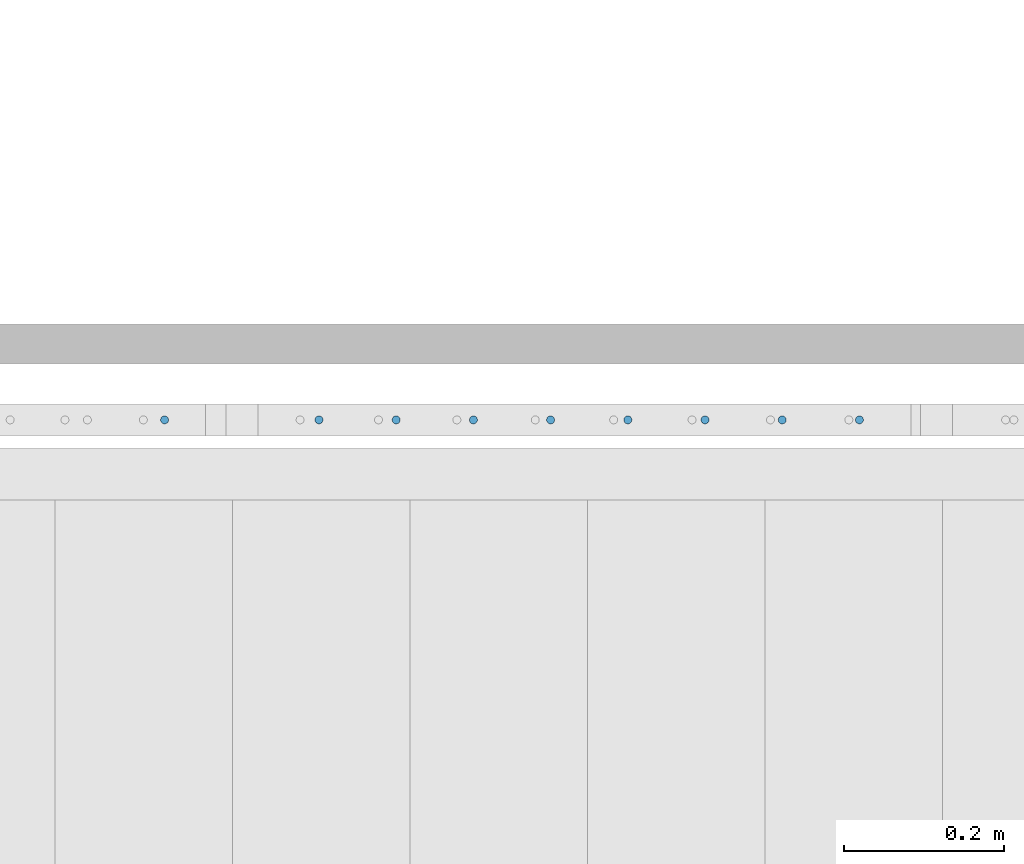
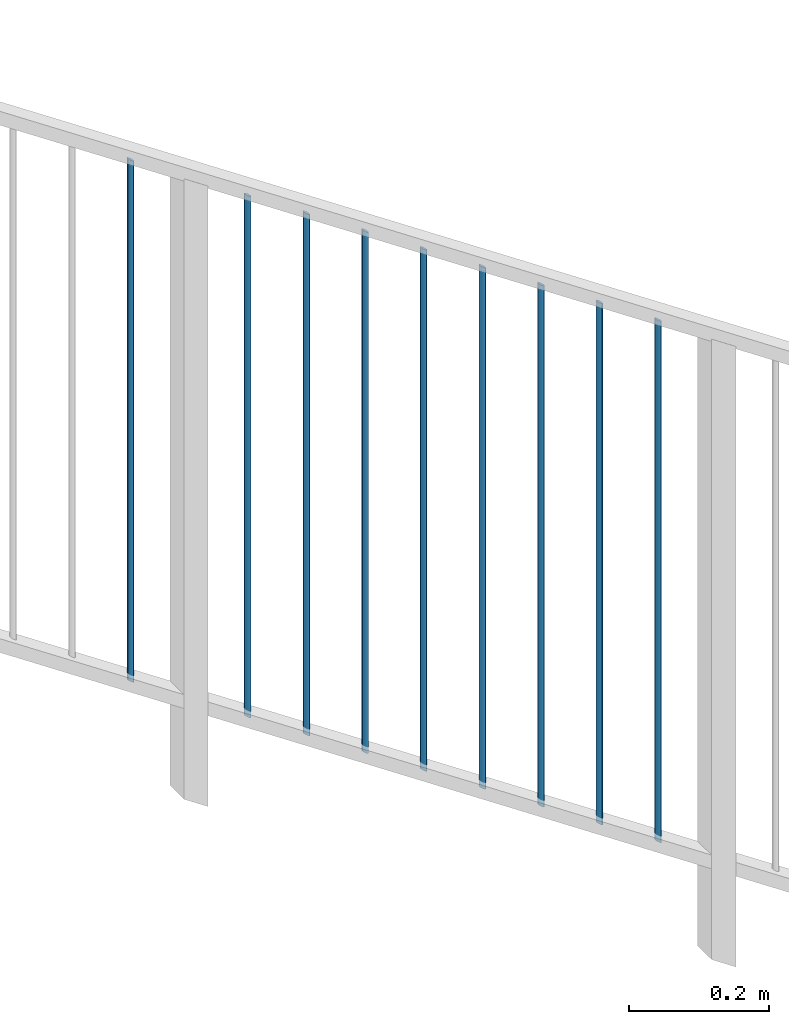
# One storey, part 32 of 135: 9 members, 1 element without a shape of its own.
"""IFC2X3 building model written with IfcOpenShell, lengths in millimetres."""

from ifc_helpers import new_model, entity, si_unit, converted_unit, derived_unit, money_unit, direction, frame, origin_with_axes, place, context, subcontext, project, spatial, faceted_brep, source, transform, mapped, material, type_object, type_shapes, element, aggregate, save


model = new_model("IFC2X3")

# Units and contexts
model_context = context("Model", 3, precision=0.01, world=origin_with_axes(), true_north=direction((0.0, 1.0)))
body_context = subcontext(model_context, "Body", "Model", "MODEL_VIEW")
ifc_project = project(units=[si_unit("LENGTHUNIT", "METRE", prefix="MILLI"), si_unit("AREAUNIT", "SQUARE_METRE"), si_unit("VOLUMEUNIT", "CUBIC_METRE"), converted_unit("PLANEANGLEUNIT", "DEGREE", entity("IfcPlaneAngleMeasure", 0.0174532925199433), si_unit("PLANEANGLEUNIT", "RADIAN"), dimensions=[0, 0, 0, 0, 0, 0, 0]), money_unit("EUR"), converted_unit("TIMEUNIT", "Year", entity("IfcTimeMeasure", 31557600.0), si_unit("TIMEUNIT", "SECOND"), dimensions=[0, 0, 1, 0, 0, 0, 0]), si_unit("MASSUNIT", "GRAM", prefix="KILO"), si_unit("THERMODYNAMICTEMPERATUREUNIT", "DEGREE_CELSIUS"), si_unit("LUMINOUSINTENSITYUNIT", "LUMEN"), si_unit("ENERGYUNIT", "JOULE", prefix="MEGA"), derived_unit("THERMALCONDUCTANCEUNIT", [(si_unit("POWERUNIT", "WATT"), 1), (si_unit("LENGTHUNIT", "METRE"), -1), (si_unit("THERMODYNAMICTEMPERATUREUNIT", "KELVIN"), -1)]), derived_unit("SPECIFICHEATCAPACITYUNIT", [(si_unit("ENERGYUNIT", "JOULE"), 1), (si_unit("MASSUNIT", "GRAM", prefix="KILO"), -1), (si_unit("THERMODYNAMICTEMPERATUREUNIT", "KELVIN"), -1)]), derived_unit("MASSDENSITYUNIT", [(si_unit("MASSUNIT", "GRAM", prefix="KILO"), 1), (si_unit("VOLUMEUNIT", "CUBIC_METRE"), -1)])], contexts=[model_context])

# Site, building, storey
site_placement = place(None, origin_with_axes())
site = spatial("IfcSite", under=ifc_project, at=site_placement, Name="Site", CompositionType="ELEMENT")
building_placement = place(site_placement, origin_with_axes())
building = spatial("IfcBuilding", under=site, at=building_placement, Name="Naam gebouw", CompositionType="ELEMENT")
storey_placement = place(building_placement, origin_with_axes())
storey = spatial("IfcBuildingStorey", under=building, at=storey_placement, Name="Begane grond N", CompositionType="ELEMENT", Elevation=0.0)

# Railing, members
railing_type = type_object("IfcRailingType", Name="Railing Type", PredefinedType="NOTDEFINED")
railing_placement = place(storey_placement, frame((56236.62159597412, 21185.9124251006, 4176.0), z_axis=(0.0, 0.0, 1.0), x_axis=(1.0, 0.0, 0.0)))
railing = element("IfcRailing", 1, at=railing_placement, inside=storey, type_object=railing_type, Name="_Reling-x", PredefinedType="NOTDEFINED")
ifc_material = material(Name="Metaal - Staal C")
member_type = type_object("IfcMemberType", Name="IfcMember", PredefinedType="MEMBER")
shared_shape = source(origin_with_axes(), body_context, "Body", "Brep", [
    faceted_brep([(0.0, -5.0, -3.357180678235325), (0.8682408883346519, -4.92403876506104, -3.306177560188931), (0.8682408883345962, -4.92403876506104, 904.19382243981), (0.0, -5.0, 904.1428193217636), (-0.8682408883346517, -4.92403876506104, -3.306177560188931), (-1.710100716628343, -4.698463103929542, -3.154717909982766), (-2.500000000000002, -4.330127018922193, -2.907403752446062), (-3.213938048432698, -3.830222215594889, -2.571749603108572), (-3.830222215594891, -3.213938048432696, -2.15795414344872), (-4.330127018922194, -2.5, -1.678590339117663), (-4.698463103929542, -1.710100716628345, -1.148223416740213), (-4.924038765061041, -0.86824088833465, -0.5829683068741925), (-5.0, 0.0, 0.0), (-4.92403876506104, 0.8682408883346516, 0.5829683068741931), (-4.698463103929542, 1.710100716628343, 1.148223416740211), (-4.330127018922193, 2.500000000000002, 1.678590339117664), (-3.83022221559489, 3.213938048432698, 2.15795414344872), (-3.213938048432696, 3.83022221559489, 2.571749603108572), (-2.5, 4.330127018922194, 2.907403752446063), (-1.710100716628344, 4.698463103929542, 3.154717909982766), (-0.8682408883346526, 4.92403876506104, 3.306177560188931), (0.0, 5.0, 3.357180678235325), (0.8682408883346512, 4.92403876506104, 3.306177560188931), (1.710100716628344, 4.698463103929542, 3.154717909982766), (2.5, 4.330127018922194, 2.907403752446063), (3.213938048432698, 3.83022221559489, 2.571749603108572), (3.83022221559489, 3.213938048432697, 2.15795414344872), (4.330127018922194, 2.499999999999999, 1.678590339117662), (4.698463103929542, 1.710100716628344, 1.148223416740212), (4.92403876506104, 0.8682408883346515, 0.5829683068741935), (5.0, 0.0, 0.0), (4.92403876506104, -0.8682408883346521, -0.5829683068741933), (4.698463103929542, -1.710100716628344, -1.148223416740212), (4.330127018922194, -2.5, -1.678590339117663), (3.83022221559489, -3.213938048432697, -2.157954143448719), (3.213938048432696, -3.83022221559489, -2.571749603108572), (2.5, -4.330127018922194, -2.907403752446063), (1.710100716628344, -4.698463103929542, -3.154717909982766), (1.710100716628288, -4.698463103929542, 904.3452820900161), (2.499999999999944, -4.330127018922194, 904.5925962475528), (3.213938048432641, -3.83022221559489, 904.9282503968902), (3.830222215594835, -3.213938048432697, 905.3420458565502), (4.330127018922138, -2.5, 905.8214096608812), (4.698463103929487, -1.710100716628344, 906.3517765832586), (4.924038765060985, -0.8682408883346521, 906.9170316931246), (4.999999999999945, 0.0, 907.4999999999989), (4.924038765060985, 0.8682408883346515, 908.0829683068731), (4.698463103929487, 1.710100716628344, 908.6482234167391), (4.330127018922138, 2.499999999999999, 909.1785903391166), (3.830222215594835, 3.213938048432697, 909.6579541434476), (3.213938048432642, 3.83022221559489, 910.0717496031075), (2.499999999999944, 4.330127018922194, 910.4074037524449), (1.710100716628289, 4.698463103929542, 910.6547179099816), (0.8682408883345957, 4.92403876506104, 910.8061775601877), (0.0, 5.0, 910.8571806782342), (-0.8682408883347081, 4.92403876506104, 910.8061775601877), (-1.710100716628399, 4.698463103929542, 910.6547179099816), (-2.500000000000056, 4.330127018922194, 910.4074037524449), (-3.213938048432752, 3.83022221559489, 910.0717496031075), (-3.830222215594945, 3.213938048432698, 909.6579541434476), (-4.330127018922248, 2.500000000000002, 909.1785903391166), (-4.698463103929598, 1.710100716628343, 908.6482234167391), (-4.924038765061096, 0.8682408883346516, 908.0829683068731), (-5.000000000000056, 0.0, 907.4999999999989), (-4.924038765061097, -0.86824088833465, 906.9170316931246), (-4.698463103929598, -1.710100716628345, 906.3517765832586), (-4.330127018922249, -2.5, 905.8214096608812), (-3.830222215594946, -3.213938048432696, 905.3420458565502), (-3.213938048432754, -3.830222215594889, 904.9282503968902), (-2.500000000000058, -4.330127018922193, 904.5925962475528), (-1.710100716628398, -4.698463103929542, 904.3452820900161), (-0.8682408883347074, -4.92403876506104, 904.19382243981)], [[[0, 1, 2, 3]], [[0, 4, 5, 6, 7, 8, 9, 10, 11, 12, 13, 14, 15, 16, 17, 18, 19, 20, 21, 22, 23, 24, 25, 26, 27, 28, 29, 30, 31, 32, 33, 34, 35, 36, 37, 1]], [[1, 37, 38, 2]], [[3, 2, 38, 39, 40, 41, 42, 43, 44, 45, 46, 47, 48, 49, 50, 51, 52, 53, 54, 55, 56, 57, 58, 59, 60, 61, 62, 63, 64, 65, 66, 67, 68, 69, 70, 71]], [[4, 0, 3, 71]], [[5, 4, 71, 70]], [[6, 5, 70, 69]], [[7, 6, 69, 68]], [[8, 7, 68, 67]], [[9, 8, 67, 66]], [[10, 9, 66, 65]], [[11, 10, 65, 64]], [[12, 11, 64, 63]], [[13, 12, 63, 62]], [[14, 13, 62, 61]], [[15, 14, 61, 60]], [[16, 15, 60, 59]], [[17, 16, 59, 58]], [[18, 17, 58, 57]], [[19, 18, 57, 56]], [[20, 19, 56, 55]], [[21, 20, 55, 54]], [[22, 21, 54, 53]], [[23, 22, 53, 52]], [[24, 23, 52, 51]], [[25, 24, 51, 50]], [[26, 25, 50, 49]], [[27, 26, 49, 48]], [[28, 27, 48, 47]], [[29, 28, 47, 46]], [[30, 29, 46, 45]], [[31, 30, 45, 44]], [[32, 31, 44, 43]], [[33, 32, 43, 42]], [[34, 33, 42, 41]], [[35, 34, 41, 40]], [[36, 35, 40, 39]], [[37, 36, 39, 38]]]),
])
type_shapes(member_type, [shared_shape])
member_1_placement = place(railing_placement, frame((1781.478262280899, 2465.000000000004, 2454.840691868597), z_axis=(0.0, 0.0, 1.0), x_axis=(1.0, 0.0, 0.0)))
member_1 = element("IfcMember", 2, at=member_1_placement, type_object=member_type, material=ifc_material, Name="_Spijlen-x", ObjectType="MEMBER", context=body_context, shape_type="MappedRepresentation", body=[
    mapped(shared_shape, transform((0.0, 0.0, 0.0), x_axis=(0.0, 1.0, 0.0), y_axis=(-1.0, 0.0, 0.0), z_axis=(0.0, 0.0, 1.0))),
])
member_2_placement = place(railing_placement, frame((1684.943827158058, 2465.000000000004, 2519.657399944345), z_axis=(0.0, 0.0, 1.0), x_axis=(1.0, 0.0, 0.0)))
member_2 = element("IfcMember", 3, at=member_2_placement, type_object=member_type, material=ifc_material, Name="_Spijlen-x", ObjectType="MEMBER", context=body_context, shape_type="MappedRepresentation", body=[
    mapped(shared_shape, transform((0.0, 0.0, 0.0), x_axis=(0.0, 1.0, 0.0), y_axis=(-1.0, 0.0, 0.0), z_axis=(0.0, 0.0, 1.0))),
])
member_3_placement = place(railing_placement, frame((1588.409392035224, 2465.000000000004, 2584.474108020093), z_axis=(0.0, 0.0, 1.0), x_axis=(1.0, 0.0, 0.0)))
member_3 = element("IfcMember", 4, at=member_3_placement, type_object=member_type, material=ifc_material, Name="_Spijlen-x", ObjectType="MEMBER", context=body_context, shape_type="MappedRepresentation", body=[
    mapped(shared_shape, transform((0.0, 0.0, 0.0), x_axis=(0.0, 1.0, 0.0), y_axis=(-1.0, 0.0, 0.0), z_axis=(0.0, 0.0, 1.0))),
])
member_4_placement = place(railing_placement, frame((1491.87495691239, 2465.000000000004, 2649.290816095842), z_axis=(0.0, 0.0, 1.0), x_axis=(1.0, 0.0, 0.0)))
member_4 = element("IfcMember", 5, at=member_4_placement, type_object=member_type, material=ifc_material, Name="_Spijlen-x", ObjectType="MEMBER", context=body_context, shape_type="MappedRepresentation", body=[
    mapped(shared_shape, transform((0.0, 0.0, 0.0), x_axis=(0.0, 1.0, 0.0), y_axis=(-1.0, 0.0, 0.0), z_axis=(0.0, 0.0, 1.0))),
])
member_5_placement = place(railing_placement, frame((1395.340521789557, 2465.000000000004, 2714.107524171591), z_axis=(0.0, 0.0, 1.0), x_axis=(1.0, 0.0, 0.0)))
member_5 = element("IfcMember", 6, at=member_5_placement, type_object=member_type, material=ifc_material, Name="_Spijlen-x", ObjectType="MEMBER", context=body_context, shape_type="MappedRepresentation", body=[
    mapped(shared_shape, transform((0.0, 0.0, 0.0), x_axis=(0.0, 1.0, 0.0), y_axis=(-1.0, 0.0, 0.0), z_axis=(0.0, 0.0, 1.0))),
])
member_6_placement = place(railing_placement, frame((1298.806086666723, 2465.000000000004, 2778.92423224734), z_axis=(0.0, 0.0, 1.0), x_axis=(1.0, 0.0, 0.0)))
member_6 = element("IfcMember", 7, at=member_6_placement, type_object=member_type, material=ifc_material, Name="_Spijlen-x", ObjectType="MEMBER", context=body_context, shape_type="MappedRepresentation", body=[
    mapped(shared_shape, transform((0.0, 0.0, 0.0), x_axis=(0.0, 1.0, 0.0), y_axis=(-1.0, 0.0, 0.0), z_axis=(0.0, 0.0, 1.0))),
])
member_7_placement = place(railing_placement, frame((1202.271651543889, 2465.000000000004, 2843.740940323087), z_axis=(0.0, 0.0, 1.0), x_axis=(1.0, 0.0, 0.0)))
member_7 = element("IfcMember", 8, at=member_7_placement, type_object=member_type, material=ifc_material, Name="_Spijlen-x", ObjectType="MEMBER", context=body_context, shape_type="MappedRepresentation", body=[
    mapped(shared_shape, transform((0.0, 0.0, 0.0), x_axis=(0.0, 1.0, 0.0), y_axis=(-1.0, 0.0, 0.0), z_axis=(0.0, 0.0, 1.0))),
])
member_8_placement = place(railing_placement, frame((1105.737216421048, 2465.000000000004, 2908.557648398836), z_axis=(0.0, 0.0, 1.0), x_axis=(1.0, 0.0, 0.0)))
member_8 = element("IfcMember", 9, at=member_8_placement, type_object=member_type, material=ifc_material, Name="_Spijlen-x", ObjectType="MEMBER", context=body_context, shape_type="MappedRepresentation", body=[
    mapped(shared_shape, transform((0.0, 0.0, 0.0), x_axis=(0.0, 1.0, 0.0), y_axis=(-1.0, 0.0, 0.0), z_axis=(0.0, 0.0, 1.0))),
])
member_9_placement = place(railing_placement, frame((912.66834617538, 2465.000000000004, 3038.191064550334), z_axis=(0.0, 0.0, 1.0), x_axis=(1.0, 0.0, 0.0)))
member_9 = element("IfcMember", 10, at=member_9_placement, type_object=member_type, material=ifc_material, Name="_Spijlen-x", ObjectType="MEMBER", context=body_context, shape_type="MappedRepresentation", body=[
    mapped(shared_shape, transform((0.0, 0.0, 0.0), x_axis=(0.0, 1.0, 0.0), y_axis=(-1.0, 0.0, 0.0), z_axis=(0.0, 0.0, 1.0))),
])
aggregate(railing, [member_1, member_2, member_3, member_4, member_5, member_6, member_7, member_8, member_9])

save(model, "model.ifc")
